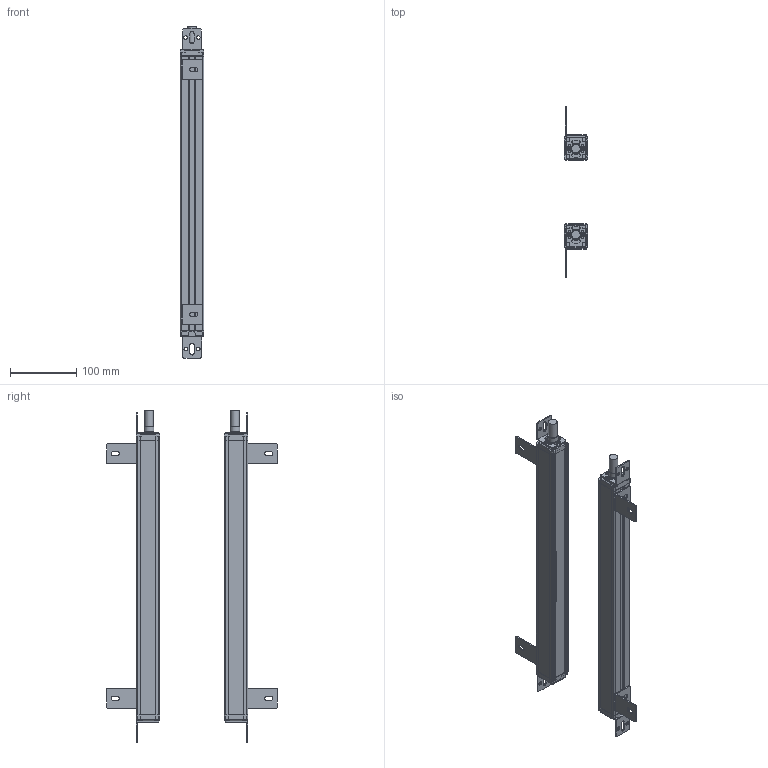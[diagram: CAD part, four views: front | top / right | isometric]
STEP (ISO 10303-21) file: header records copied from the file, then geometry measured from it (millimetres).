
FILE_DESCRIPTION(/* description */ (''),/* implementation_level */ '2;1');
FILE_NAME(/* name */ '1040_35X35.stp',/* time_stamp */ '2023-09-18T15:51:24+08:00',/* author */ (''),/* organization */ (''),/* preprocessor_version */ 'ST-DEVELOPER v16.7',/* originating_system */ 'SIEMENS PLM Software NX 12.0',/* authorisation */ '');
FILE_SCHEMA (('AP203_CONFIGURATION_CONTROLLED_3D_DESIGN_OF_MECHANICAL_PARTS_AND_ASSEMBLIES_MIM_LF { 1 0 10303 403 2 1 2}'));
Length unit declared in the file: millimetre
Products named in the file (1): 1040_35X35_stp
Bounding box: 35.41 x 258.01 x 501.6 mm (x, y, z)
Volume: 453019.7 mm3; surface area: 348353.5 mm2
Topology: 28 solids, 28 shells, 1182 faces, 3360 edges, 2260 vertices
Faces by surface type: plane 658, cylinder 464, cone 60
Full cylindrical faces by diameter (mm): 3.2 x8, 6 x24, 13 x2, 14.4 x2, 15 x2
Entity records: 39055 total; most frequent: DIRECTION 6832, CARTESIAN_POINT 6745, ORIENTED_EDGE 6612, EDGE_CURVE 3306, AXIS2_PLACEMENT_3D 2347, VERTEX_POINT 2244, LINE 2138, VECTOR 2138
